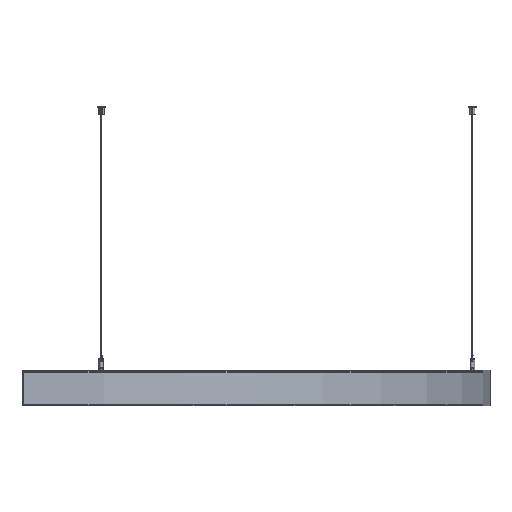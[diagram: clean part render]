
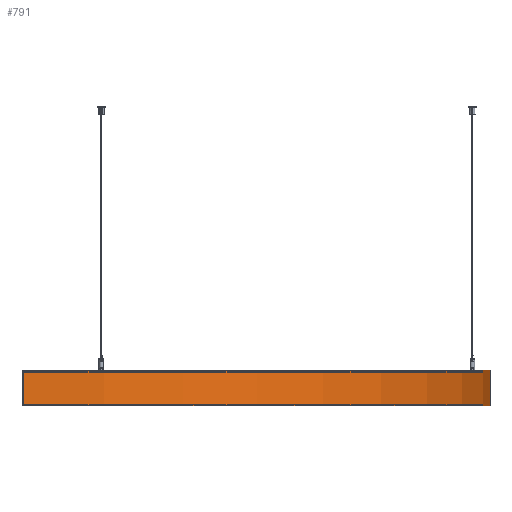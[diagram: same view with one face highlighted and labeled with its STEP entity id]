
A CAD part, front view. The second image highlights one B-rep face of the part: STEP entity #791.
In plain terms, the highlighted cylindrical face has radius 925 mm (diameter 1850 mm), a partial arc.
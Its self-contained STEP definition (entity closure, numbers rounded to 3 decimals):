
#791=ADVANCED_FACE('',(#920),#922,.T.);
#920=FACE_BOUND('',#921,.T.);
#921=EDGE_LOOP('',(#1507,#1508,#1509,#1510));
#922=CYLINDRICAL_SURFACE('',#923,925.);
#923=AXIS2_PLACEMENT_3D('',#924,#925,#926);
#924=CARTESIAN_POINT('',(0.,0.,0.));
#925=DIRECTION('',(0.,0.,1.));
#926=DIRECTION('',(0.,-1.,0.));
#1507=ORIENTED_EDGE('',*,*,#1774,.T.);
#1508=ORIENTED_EDGE('',*,*,#1770,.T.);
#1509=ORIENTED_EDGE('',*,*,#1759,.F.);
#1510=ORIENTED_EDGE('',*,*,#1768,.F.);
#1759=EDGE_CURVE('',#1899,#1901,#1902,.T.);
#1768=EDGE_CURVE('',#1915,#1899,#1917,.T.);
#1770=EDGE_CURVE('',#1920,#1901,#1921,.T.);
#1774=EDGE_CURVE('',#1915,#1920,#1925,.T.);
#1899=VERTEX_POINT('',#2144);
#1901=VERTEX_POINT('',#2148);
#1902=CIRCLE('',#2149,925.);
#1915=VERTEX_POINT('',#2181);
#1917=LINE('',#2185,#2186);
#1920=VERTEX_POINT('',#2192);
#1921=LINE('',#2193,#2194);
#1925=CIRCLE('',#2206,925.);
#2144=CARTESIAN_POINT('',(0.,-925.,70.));
#2148=CARTESIAN_POINT('',(0.,925.,70.));
#2149=AXIS2_PLACEMENT_3D('',#2150,#2151,#2152);
#2150=CARTESIAN_POINT('',(0.,0.,70.));
#2151=DIRECTION('',(0.,0.,1.));
#2152=DIRECTION('',(0.,-1.,0.));
#2181=CARTESIAN_POINT('',(0.,-925.,0.));
#2185=CARTESIAN_POINT('',(0.,-925.,0.));
#2186=VECTOR('',#2187,1.);
#2187=DIRECTION('',(0.,0.,1.));
#2192=CARTESIAN_POINT('',(0.,925.,0.));
#2193=CARTESIAN_POINT('',(0.,925.,0.));
#2194=VECTOR('',#2195,1.);
#2195=DIRECTION('',(0.,0.,1.));
#2206=AXIS2_PLACEMENT_3D('',#2207,#2208,#2209);
#2207=CARTESIAN_POINT('',(0.,0.,0.));
#2208=DIRECTION('',(0.,0.,1.));
#2209=DIRECTION('',(0.,-1.,0.));
